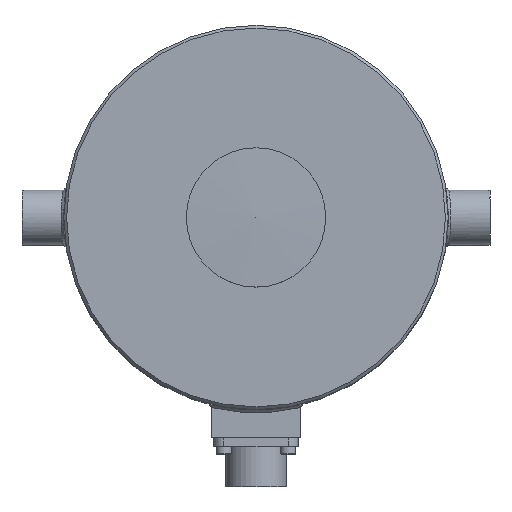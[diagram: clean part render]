
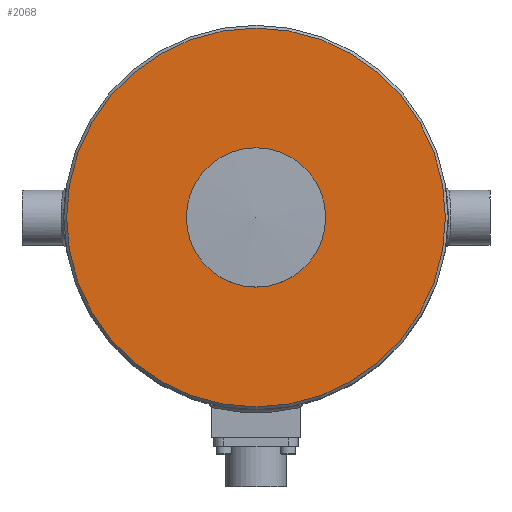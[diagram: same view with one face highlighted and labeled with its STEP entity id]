
A CAD part, top view. The second image highlights one B-rep face of the part: STEP entity #2068.
In plain terms, the highlighted planar face has unit normal (0, 0, 1).
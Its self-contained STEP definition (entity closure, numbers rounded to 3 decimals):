
#304=PLANE('',#2212);
#665=ORIENTED_EDGE('',*,*,#837,.F.);
#666=ORIENTED_EDGE('',*,*,#693,.T.);
#693=EDGE_CURVE('',#865,#865,#984,.F.);
#837=EDGE_CURVE('',#965,#965,#1016,.T.);
#865=VERTEX_POINT('',#2755);
#965=VERTEX_POINT('',#3765);
#984=CIRCLE('',#2109,68.);
#1016=CIRCLE('',#2211,25.);
#1157=EDGE_LOOP('',(#665));
#1158=EDGE_LOOP('',(#666));
#1300=FACE_BOUND('',#1157,.T.);
#1301=FACE_BOUND('',#1158,.T.);
#2068=ADVANCED_FACE('',(#1300,#1301),#304,.T.);
#2109=AXIS2_PLACEMENT_3D('',#2754,#2287,#2288);
#2211=AXIS2_PLACEMENT_3D('',#3764,#2589,#2590);
#2212=AXIS2_PLACEMENT_3D('',#3766,#2591,#2592);
#2287=DIRECTION('',(0.,0.,-1.));
#2288=DIRECTION('',(-1.,0.,0.));
#2589=DIRECTION('',(0.,0.,1.));
#2590=DIRECTION('',(1.,0.,0.));
#2591=DIRECTION('',(0.,0.,1.));
#2592=DIRECTION('',(1.,0.,0.));
#2754=CARTESIAN_POINT('',(0.,0.,60.));
#2755=CARTESIAN_POINT('',(-68.,0.,60.));
#3764=CARTESIAN_POINT('',(0.,0.,60.));
#3765=CARTESIAN_POINT('',(25.,0.,60.));
#3766=CARTESIAN_POINT('',(25.,0.,60.));
